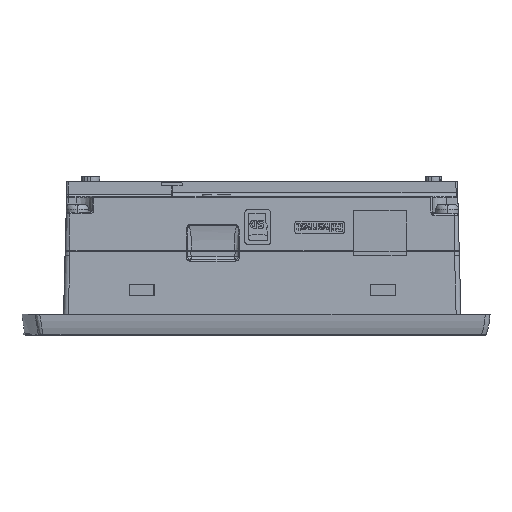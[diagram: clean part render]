
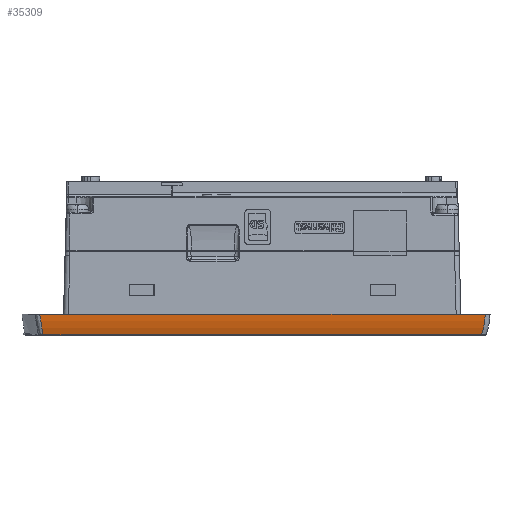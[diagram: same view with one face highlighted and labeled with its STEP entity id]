
A CAD part, left-side view. The second image highlights one B-rep face of the part: STEP entity #35309.
In plain terms, the highlighted cylindrical face has radius 20 mm (diameter 40 mm), a partial arc.
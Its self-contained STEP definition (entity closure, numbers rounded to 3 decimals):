
#1044 = CARTESIAN_POINT ( 'NONE',  ( -130.858, 121.481, -41.157 ) ) ;
#3923 = B_SPLINE_CURVE_WITH_KNOTS ( 'NONE', 3,
 ( #145409, #47791, #159339, #75849, #173332, #89895, #6391, #103924 ),
 .UNSPECIFIED., .F., .F.,
 ( 4, 2, 2, 4 ),
 ( 0., 0.003, 0.005, 0.007 ),
 .UNSPECIFIED. ) ;
#6391 = CARTESIAN_POINT ( 'NONE',  ( -131.412, -16.65, -37.449 ) ) ;
#9314 = ORIENTED_EDGE ( 'NONE', *, *, #138792, .T. ) ;
#15038 = CARTESIAN_POINT ( 'NONE',  ( -130.19, 121.165, -43.204 ) ) ;
#22649 = CARTESIAN_POINT ( 'NONE',  ( -131.43, -16.663, -36.9 ) ) ;
#26561 = DIRECTION ( 'NONE',  ( 0., 0., 1. ) ) ;
#31099 = DIRECTION ( 'NONE',  ( 0., 1., 0. ) ) ;
#35309 = ADVANCED_FACE ( 'NONE', ( #45894 ), #37184, .T. ) ;
#35746 = VERTEX_POINT ( 'NONE', #121453 ) ;
#37184 = CYLINDRICAL_SURFACE ( 'NONE', #118181, 20. ) ;
#45894 = FACE_OUTER_BOUND ( 'NONE', #166617, .T. ) ;
#47791 = CARTESIAN_POINT ( 'NONE',  ( -130.555, -15.891, -42.223 ) ) ;
#49444 = VERTEX_POINT ( 'NONE', #147344 ) ;
#52682 = ORIENTED_EDGE ( 'NONE', *, *, #140633, .T. ) ;
#60717 = ORIENTED_EDGE ( 'NONE', *, *, #112541, .T. ) ;
#75849 = CARTESIAN_POINT ( 'NONE',  ( -131.163, -16.434, -39.612 ) ) ;
#84542 = CARTESIAN_POINT ( 'NONE',  ( -131.274, 121.83, -39.042 ) ) ;
#89895 = CARTESIAN_POINT ( 'NONE',  ( -131.372, -16.616, -37.994 ) ) ;
#96400 = LINE ( 'NONE', #129299, #174828 ) ;
#96627 = DIRECTION ( 'NONE',  ( 0., -1., 0. ) ) ;
#97231 = CARTESIAN_POINT ( 'NONE',  ( -131.43, 122.204, -36.9 ) ) ;
#98587 = CARTESIAN_POINT ( 'NONE',  ( -130.567, 121.318, -42.192 ) ) ;
#103924 = CARTESIAN_POINT ( 'NONE',  ( -131.43, -16.663, -36.9 ) ) ;
#105969 = B_SPLINE_CURVE_WITH_KNOTS ( 'NONE', 3,
 ( #140063, #111991, #84542, #1044, #98587, #15038 ),
 .UNSPECIFIED., .F., .F.,
 ( 4, 2, 4 ),
 ( 0., 0.003, 0.007 ),
 .UNSPECIFIED. ) ;
#111991 = CARTESIAN_POINT ( 'NONE',  ( -131.395, 122.012, -37.975 ) ) ;
#112541 = EDGE_CURVE ( 'NONE', #151403, #35746, #105969, .T. ) ;
#114376 = VECTOR ( 'NONE', #125293, 1000. ) ;
#118181 = AXIS2_PLACEMENT_3D ( 'NONE', #124093, #96627, #26561 ) ;
#121453 = CARTESIAN_POINT ( 'NONE',  ( -130.19, 121.165, -43.204 ) ) ;
#124093 = CARTESIAN_POINT ( 'NONE',  ( -111.441, 128.436, -36.243 ) ) ;
#124316 = EDGE_CURVE ( 'NONE', #49444, #157683, #3923, .T. ) ;
#125293 = DIRECTION ( 'NONE',  ( 0., -1., 0. ) ) ;
#129299 = CARTESIAN_POINT ( 'NONE',  ( -131.43, 128.436, -36.9 ) ) ;
#138708 = CARTESIAN_POINT ( 'NONE',  ( -130.19, 128.436, -43.204 ) ) ;
#138792 = EDGE_CURVE ( 'NONE', #35746, #49444, #151470, .T. ) ;
#140063 = CARTESIAN_POINT ( 'NONE',  ( -131.43, 122.204, -36.9 ) ) ;
#140633 = EDGE_CURVE ( 'NONE', #157683, #151403, #96400, .T. ) ;
#141966 = ORIENTED_EDGE ( 'NONE', *, *, #124316, .T. ) ;
#145409 = CARTESIAN_POINT ( 'NONE',  ( -130.19, -15.562, -43.204 ) ) ;
#147344 = CARTESIAN_POINT ( 'NONE',  ( -130.19, -15.562, -43.204 ) ) ;
#151403 = VERTEX_POINT ( 'NONE', #97231 ) ;
#151470 = LINE ( 'NONE', #138708, #114376 ) ;
#157683 = VERTEX_POINT ( 'NONE', #22649 ) ;
#159339 = CARTESIAN_POINT ( 'NONE',  ( -130.846, -16.153, -41.204 ) ) ;
#166617 = EDGE_LOOP ( 'NONE', ( #60717, #9314, #141966, #52682 ) ) ;
#173332 = CARTESIAN_POINT ( 'NONE',  ( -131.247, -16.508, -39.075 ) ) ;
#174828 = VECTOR ( 'NONE', #31099, 1000. ) ;
